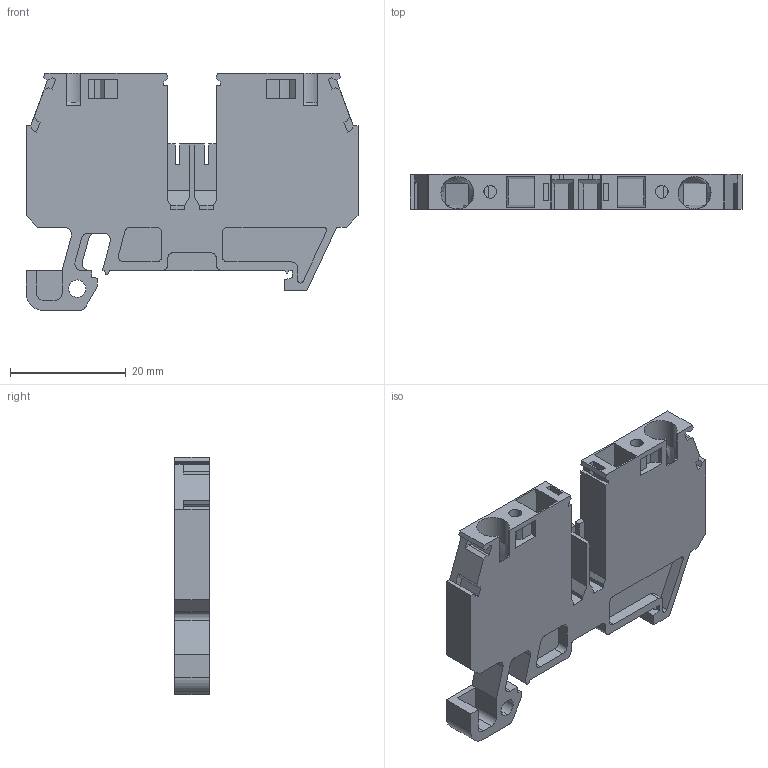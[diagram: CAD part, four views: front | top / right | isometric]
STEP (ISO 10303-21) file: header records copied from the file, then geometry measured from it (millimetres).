
FILE_DESCRIPTION (( 'STEP AP214' ), '1' );
FILE_NAME ('42410_EURO Q4_35.STEP', '2021-03-26T09:34:09', ( '' ), ( '' ), 'SwSTEP 2.0', 'SolidWorks 2020', '' );
FILE_SCHEMA (( 'AUTOMOTIVE_DESIGN' ));
Length unit declared in the file: millimetre
Products named in the file (1): 42410_EURO Q4_35
Bounding box: 57.4 x 6 x 41 mm (x, y, z)
Volume: 8128.1 mm3; surface area: 6753.3 mm2
Topology: 1 solids, 1 shells, 283 faces, 791 edges, 521 vertices
Faces by surface type: plane 224, cylinder 47, bspline 12
Entity records: 9899 total; most frequent: CARTESIAN_POINT 2806, ORIENTED_EDGE 1582, DIRECTION 1262, EDGE_CURVE 791, VECTOR 622, LINE 622, VERTEX_POINT 521, AXIS2_PLACEMENT_3D 320
